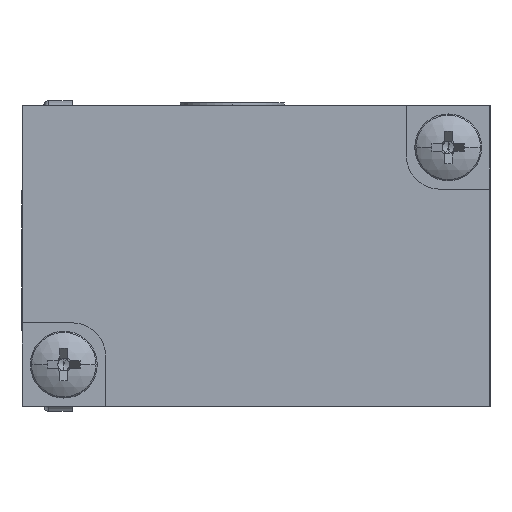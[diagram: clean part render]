
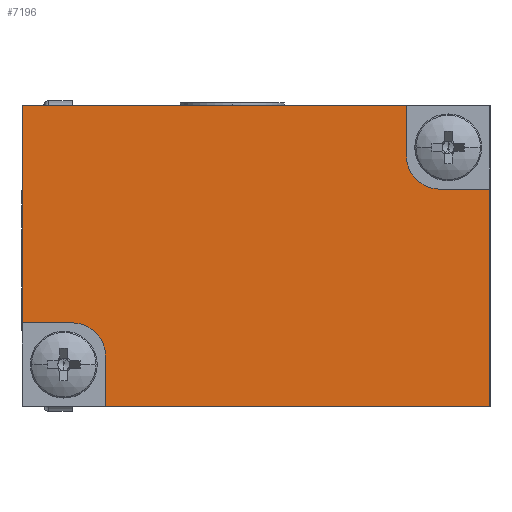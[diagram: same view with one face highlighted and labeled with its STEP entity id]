
A CAD part, left-side view. The second image highlights one B-rep face of the part: STEP entity #7196.
In plain terms, the highlighted planar face has unit normal (-1, 0, 0).
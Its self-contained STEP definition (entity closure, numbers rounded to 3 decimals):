
#54 = DIRECTION ( 'NONE',  ( 0., 0., -1. ) ) ;
#167 = EDGE_CURVE ( 'NONE', #5526, #1666, #3265, .T. ) ;
#267 = VERTEX_POINT ( 'NONE', #4556 ) ;
#282 = CARTESIAN_POINT ( 'NONE',  ( -9., 5., 9. ) ) ;
#316 = VERTEX_POINT ( 'NONE', #1731 ) ;
#386 = ORIENTED_EDGE ( 'NONE', *, *, #7014, .F. ) ;
#687 = ORIENTED_EDGE ( 'NONE', *, *, #7000, .F. ) ;
#694 = LINE ( 'NONE', #8704, #4686 ) ;
#770 = CARTESIAN_POINT ( 'NONE',  ( -9., 28., 9. ) ) ;
#1069 = DIRECTION ( 'NONE',  ( 0., 0., -1. ) ) ;
#1211 = LINE ( 'NONE', #9006, #4619 ) ;
#1244 = DIRECTION ( 'NONE',  ( 1., 0., 0. ) ) ;
#1359 = DIRECTION ( 'NONE',  ( 0., -1., 0. ) ) ;
#1498 = DIRECTION ( 'NONE',  ( 0., -1., 0. ) ) ;
#1613 = DIRECTION ( 'NONE',  ( 0., 1., 0. ) ) ;
#1666 = VERTEX_POINT ( 'NONE', #4602 ) ;
#1694 = CARTESIAN_POINT ( 'NONE',  ( -9., 0., -9. ) ) ;
#1731 = CARTESIAN_POINT ( 'NONE',  ( -9., 23., -6. ) ) ;
#2194 = DIRECTION ( 'NONE',  ( 0., 0., -1. ) ) ;
#2446 = ORIENTED_EDGE ( 'NONE', *, *, #3791, .F. ) ;
#2596 = VECTOR ( 'NONE', #1069, 1000. ) ;
#2616 = CARTESIAN_POINT ( 'NONE',  ( -9., 28., 9. ) ) ;
#2623 = AXIS2_PLACEMENT_3D ( 'NONE', #6940, #1244, #6318 ) ;
#2696 = ORIENTED_EDGE ( 'NONE', *, *, #9010, .F. ) ;
#2847 = CARTESIAN_POINT ( 'NONE',  ( -9., 0., 9. ) ) ;
#3134 = EDGE_CURVE ( 'NONE', #267, #8505, #4402, .T. ) ;
#3265 = LINE ( 'NONE', #770, #8245 ) ;
#3641 = CARTESIAN_POINT ( 'NONE',  ( -9., 3., 4. ) ) ;
#3791 = EDGE_CURVE ( 'NONE', #267, #316, #1211, .T. ) ;
#3916 = DIRECTION ( 'NONE',  ( 0., 0., -1. ) ) ;
#3969 = LINE ( 'NONE', #4459, #5235 ) ;
#4054 = EDGE_CURVE ( 'NONE', #5526, #8295, #8440, .T. ) ;
#4056 = LINE ( 'NONE', #282, #2596 ) ;
#4082 = VECTOR ( 'NONE', #1613, 1000. ) ;
#4217 = ORIENTED_EDGE ( 'NONE', *, *, #6881, .T. ) ;
#4402 = LINE ( 'NONE', #5786, #8562 ) ;
#4459 = CARTESIAN_POINT ( 'NONE',  ( -9., 0., 4. ) ) ;
#4508 = ORIENTED_EDGE ( 'NONE', *, *, #4662, .T. ) ;
#4556 = CARTESIAN_POINT ( 'NONE',  ( -9., 23., -9. ) ) ;
#4602 = CARTESIAN_POINT ( 'NONE',  ( -9., 28., -4. ) ) ;
#4610 = CARTESIAN_POINT ( 'NONE',  ( -9., 25., -4. ) ) ;
#4619 = VECTOR ( 'NONE', #6115, 1000. ) ;
#4624 = VERTEX_POINT ( 'NONE', #6642 ) ;
#4662 = EDGE_CURVE ( 'NONE', #7415, #4624, #6066, .T. ) ;
#4686 = VECTOR ( 'NONE', #2194, 1000. ) ;
#5235 = VECTOR ( 'NONE', #5897, 1000. ) ;
#5306 = ORIENTED_EDGE ( 'NONE', *, *, #5727, .F. ) ;
#5526 = VERTEX_POINT ( 'NONE', #2616 ) ;
#5607 = PLANE ( 'NONE',  #2623 ) ;
#5645 = EDGE_LOOP ( 'NONE', ( #5306, #687, #4508, #2696, #6409, #7860, #386, #4217, #2446, #9217 ) ) ;
#5727 = EDGE_CURVE ( 'NONE', #6756, #8505, #694, .T. ) ;
#5786 = CARTESIAN_POINT ( 'NONE',  ( -9., 0., -9. ) ) ;
#5798 = DIRECTION ( 'NONE',  ( 0., 0., -1. ) ) ;
#5897 = DIRECTION ( 'NONE',  ( 0., -1., 0. ) ) ;
#5916 = FACE_OUTER_BOUND ( 'NONE', #5645, .T. ) ;
#6018 = DIRECTION ( 'NONE',  ( 1., 0., 0. ) ) ;
#6066 = CIRCLE ( 'NONE', #7816, 2. ) ;
#6115 = DIRECTION ( 'NONE',  ( 0., 0., 1. ) ) ;
#6318 = DIRECTION ( 'NONE',  ( 0., 0., -1. ) ) ;
#6326 = CARTESIAN_POINT ( 'NONE',  ( -9., 25., -6. ) ) ;
#6409 = ORIENTED_EDGE ( 'NONE', *, *, #4054, .F. ) ;
#6642 = CARTESIAN_POINT ( 'NONE',  ( -9., 5., 6. ) ) ;
#6737 = CARTESIAN_POINT ( 'NONE',  ( -9., 3., 6. ) ) ;
#6756 = VERTEX_POINT ( 'NONE', #6984 ) ;
#6803 = LINE ( 'NONE', #7329, #4082 ) ;
#6881 = EDGE_CURVE ( 'NONE', #7517, #316, #6915, .T. ) ;
#6915 = CIRCLE ( 'NONE', #8135, 2. ) ;
#6940 = CARTESIAN_POINT ( 'NONE',  ( -9., 0., 9. ) ) ;
#6984 = CARTESIAN_POINT ( 'NONE',  ( -9., 0., 4. ) ) ;
#7000 = EDGE_CURVE ( 'NONE', #7415, #6756, #3969, .T. ) ;
#7014 = EDGE_CURVE ( 'NONE', #7517, #1666, #6803, .T. ) ;
#7196 = ADVANCED_FACE ( 'NONE', ( #5916 ), #5607, .F. ) ;
#7329 = CARTESIAN_POINT ( 'NONE',  ( -9., 28., -4. ) ) ;
#7415 = VERTEX_POINT ( 'NONE', #3641 ) ;
#7418 = VECTOR ( 'NONE', #1359, 1000. ) ;
#7517 = VERTEX_POINT ( 'NONE', #4610 ) ;
#7795 = CARTESIAN_POINT ( 'NONE',  ( -9., 5., 9. ) ) ;
#7816 = AXIS2_PLACEMENT_3D ( 'NONE', #6737, #6018, #3916 ) ;
#7860 = ORIENTED_EDGE ( 'NONE', *, *, #167, .T. ) ;
#7994 = DIRECTION ( 'NONE',  ( 1., 0., 0. ) ) ;
#8135 = AXIS2_PLACEMENT_3D ( 'NONE', #6326, #7994, #5798 ) ;
#8245 = VECTOR ( 'NONE', #54, 1000. ) ;
#8295 = VERTEX_POINT ( 'NONE', #7795 ) ;
#8440 = LINE ( 'NONE', #2847, #7418 ) ;
#8505 = VERTEX_POINT ( 'NONE', #1694 ) ;
#8562 = VECTOR ( 'NONE', #1498, 1000. ) ;
#8704 = CARTESIAN_POINT ( 'NONE',  ( -9., 0., 9. ) ) ;
#9006 = CARTESIAN_POINT ( 'NONE',  ( -9., 23., -9. ) ) ;
#9010 = EDGE_CURVE ( 'NONE', #8295, #4624, #4056, .T. ) ;
#9217 = ORIENTED_EDGE ( 'NONE', *, *, #3134, .T. ) ;
